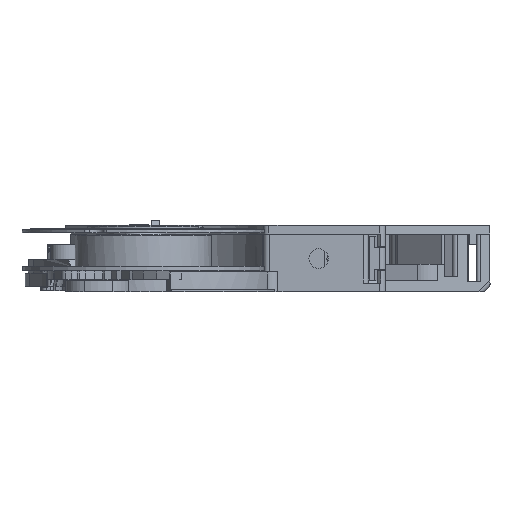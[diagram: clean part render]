
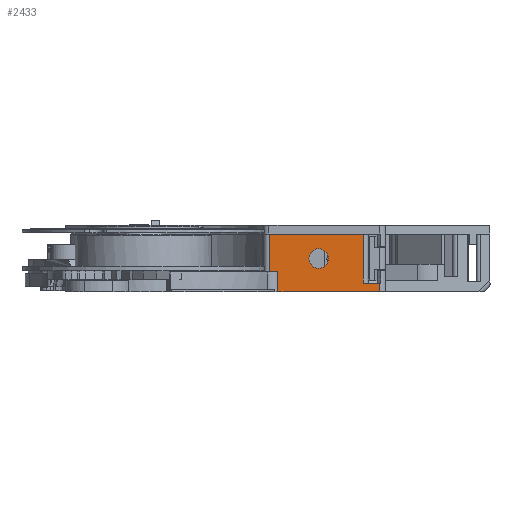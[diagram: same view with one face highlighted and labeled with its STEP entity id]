
A CAD part, left-side view. The second image highlights one B-rep face of the part: STEP entity #2433.
In plain terms, the highlighted planar face has unit normal (-1, 0, 0).
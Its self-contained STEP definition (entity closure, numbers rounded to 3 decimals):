
#1715 = EDGE_CURVE ( 'NONE', #57906, #36523, #12423, .T. ) ;
#2433 = ADVANCED_FACE ( 'NONE', ( #67009, #36405 ), #23518, .T. ) ;
#2434 = VERTEX_POINT ( 'NONE', #49302 ) ;
#5778 = DIRECTION ( 'NONE',  ( -1., 0., 0. ) ) ;
#11376 = VERTEX_POINT ( 'NONE', #48874 ) ;
#12423 = LINE ( 'NONE', #73238, #20580 ) ;
#13175 = ORIENTED_EDGE ( 'NONE', *, *, #16509, .F. ) ;
#14098 = ORIENTED_EDGE ( 'NONE', *, *, #21755, .T. ) ;
#14691 = EDGE_CURVE ( 'NONE', #71047, #53730, #25916, .T. ) ;
#14790 = CARTESIAN_POINT ( 'NONE',  ( -90.652, -9.5, 1.6 ) ) ;
#15177 = CARTESIAN_POINT ( 'NONE',  ( -90.652, 5.801, 0. ) ) ;
#16191 = CARTESIAN_POINT ( 'NONE',  ( -90.652, -12.5, 28.378 ) ) ;
#16509 = EDGE_CURVE ( 'NONE', #2434, #36523, #50330, .T. ) ;
#17870 = DIRECTION ( 'NONE',  ( 0., 1., 0. ) ) ;
#19294 = CARTESIAN_POINT ( 'NONE',  ( -90.652, 31.571, 3.6 ) ) ;
#20580 = VECTOR ( 'NONE', #36987, 1000. ) ;
#20822 = DIRECTION ( 'NONE',  ( -1., 0., 0. ) ) ;
#20918 = VERTEX_POINT ( 'NONE', #21310 ) ;
#21310 = CARTESIAN_POINT ( 'NONE',  ( -90.652, -1.5, 7.75 ) ) ;
#21755 = EDGE_CURVE ( 'NONE', #56615, #71047, #54662, .T. ) ;
#22239 = EDGE_LOOP ( 'NONE', ( #31120 ) ) ;
#22283 = DIRECTION ( 'NONE',  ( 0., 1., 0. ) ) ;
#22640 = LINE ( 'NONE', #16191, #61446 ) ;
#23518 = PLANE ( 'NONE',  #66754 ) ;
#24426 = DIRECTION ( 'NONE',  ( 0., 1., 0. ) ) ;
#24938 = DIRECTION ( 'NONE',  ( 0., 1., 0. ) ) ;
#25916 = LINE ( 'NONE', #44842, #36227 ) ;
#27512 = DIRECTION ( 'NONE',  ( 0., 0., 1. ) ) ;
#27544 = CARTESIAN_POINT ( 'NONE',  ( -90.652, 0., 10.4 ) ) ;
#27947 = LINE ( 'NONE', #27544, #43611 ) ;
#28030 = VECTOR ( 'NONE', #17870, 1000. ) ;
#28047 = CARTESIAN_POINT ( 'NONE',  ( -90.652, -12.5, 0. ) ) ;
#28064 = DIRECTION ( 'NONE',  ( 0., 0., 1. ) ) ;
#30374 = DIRECTION ( 'NONE',  ( 0., 0., 1. ) ) ;
#30859 = EDGE_CURVE ( 'NONE', #41679, #11376, #48907, .T. ) ;
#31120 = ORIENTED_EDGE ( 'NONE', *, *, #46953, .F. ) ;
#32796 = CARTESIAN_POINT ( 'NONE',  ( -90.652, 7.4, 3.6 ) ) ;
#33717 = LINE ( 'NONE', #15177, #44788 ) ;
#36227 = VECTOR ( 'NONE', #69405, 1000. ) ;
#36405 = FACE_BOUND ( 'NONE', #22239, .T. ) ;
#36523 = VERTEX_POINT ( 'NONE', #32796 ) ;
#36987 = DIRECTION ( 'NONE',  ( 0., 0., -1. ) ) ;
#36993 = ORIENTED_EDGE ( 'NONE', *, *, #30859, .F. ) ;
#38805 = CARTESIAN_POINT ( 'NONE',  ( -90.652, -13.5, 1.6 ) ) ;
#41314 = ORIENTED_EDGE ( 'NONE', *, *, #57372, .T. ) ;
#41679 = VERTEX_POINT ( 'NONE', #28047 ) ;
#42020 = ORIENTED_EDGE ( 'NONE', *, *, #54231, .T. ) ;
#43611 = VECTOR ( 'NONE', #22283, 1000. ) ;
#44788 = VECTOR ( 'NONE', #71153, 1000. ) ;
#44842 = CARTESIAN_POINT ( 'NONE',  ( -90.652, -9.5, 10.4 ) ) ;
#45421 = CIRCLE ( 'NONE', #63414, 1.75 ) ;
#46953 = EDGE_CURVE ( 'NONE', #20918, #20918, #45421, .T. ) ;
#48434 = ORIENTED_EDGE ( 'NONE', *, *, #14691, .T. ) ;
#48874 = CARTESIAN_POINT ( 'NONE',  ( -90.652, 5.801, 0. ) ) ;
#48907 = LINE ( 'NONE', #54950, #28030 ) ;
#49302 = CARTESIAN_POINT ( 'NONE',  ( -90.652, 5.801, 3.6 ) ) ;
#50330 = LINE ( 'NONE', #19294, #68125 ) ;
#50505 = VECTOR ( 'NONE', #24426, 1000. ) ;
#51452 = CARTESIAN_POINT ( 'NONE',  ( -90.652, -1.5, 6. ) ) ;
#51877 = ORIENTED_EDGE ( 'NONE', *, *, #1715, .T. ) ;
#53730 = VERTEX_POINT ( 'NONE', #76140 ) ;
#54231 = EDGE_CURVE ( 'NONE', #41679, #56615, #22640, .T. ) ;
#54662 = LINE ( 'NONE', #38805, #50505 ) ;
#54950 = CARTESIAN_POINT ( 'NONE',  ( -90.652, 0., 0. ) ) ;
#56615 = VERTEX_POINT ( 'NONE', #72297 ) ;
#56697 = CARTESIAN_POINT ( 'NONE',  ( -90.652, 7.4, 10.4 ) ) ;
#57372 = EDGE_CURVE ( 'NONE', #53730, #57906, #27947, .T. ) ;
#57906 = VERTEX_POINT ( 'NONE', #56697 ) ;
#60991 = CARTESIAN_POINT ( 'NONE',  ( -90.652, 0., 28.378 ) ) ;
#61446 = VECTOR ( 'NONE', #27512, 1000. ) ;
#63414 = AXIS2_PLACEMENT_3D ( 'NONE', #51452, #20822, #28064 ) ;
#66102 = ORIENTED_EDGE ( 'NONE', *, *, #70231, .T. ) ;
#66754 = AXIS2_PLACEMENT_3D ( 'NONE', #60991, #5778, #30374 ) ;
#67009 = FACE_OUTER_BOUND ( 'NONE', #78976, .T. ) ;
#68125 = VECTOR ( 'NONE', #24938, 1000. ) ;
#69405 = DIRECTION ( 'NONE',  ( 0., 0., 1. ) ) ;
#70231 = EDGE_CURVE ( 'NONE', #2434, #11376, #33717, .T. ) ;
#71047 = VERTEX_POINT ( 'NONE', #14790 ) ;
#71153 = DIRECTION ( 'NONE',  ( 0., 0., -1. ) ) ;
#72297 = CARTESIAN_POINT ( 'NONE',  ( -90.652, -12.5, 1.6 ) ) ;
#73238 = CARTESIAN_POINT ( 'NONE',  ( -90.652, 7.4, 3.6 ) ) ;
#76140 = CARTESIAN_POINT ( 'NONE',  ( -90.652, -9.5, 10.4 ) ) ;
#78976 = EDGE_LOOP ( 'NONE', ( #14098, #48434, #41314, #51877, #13175, #66102, #36993, #42020 ) ) ;
